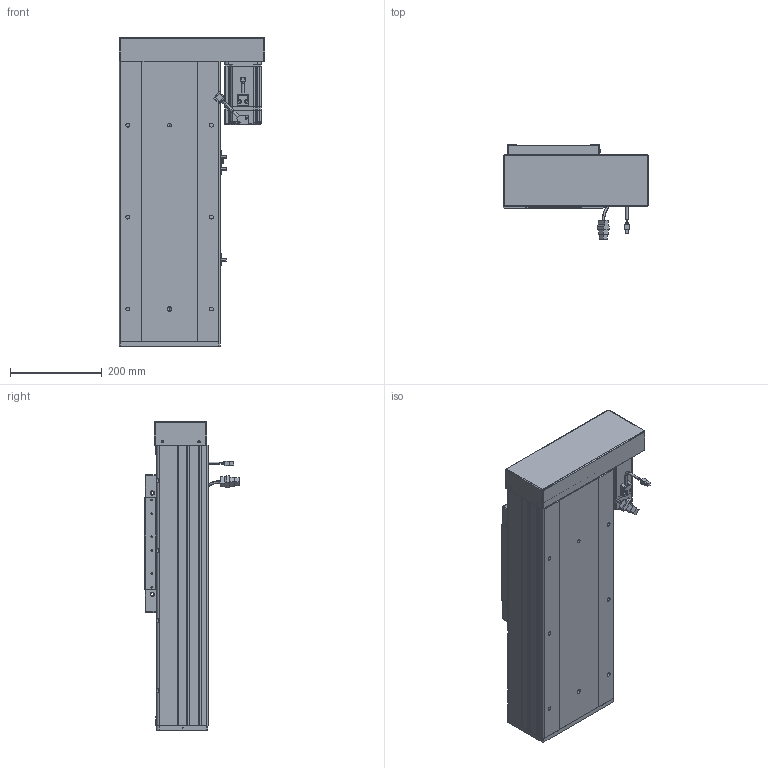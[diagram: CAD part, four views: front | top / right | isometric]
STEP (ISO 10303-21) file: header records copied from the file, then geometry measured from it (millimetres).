
FILE_DESCRIPTION (( 'STEP AP203' ), '1' );
FILE_NAME ('RY220F-L2525-300-RK.SLDASM_200.step', '2022-07-04T01:34:42', ( '' ), ( '' ), 'SwSTEP 2.0', 'SolidWorks 2016', '' );
FILE_SCHEMA (( 'CONFIG_CONTROL_DESIGN' ));
Length unit declared in the file: millimetre
Products named in the file (15): RY220F-祥凄詩湍-蛌殏-300_200; RY220左右折电机安装板; 侐源滅袉蝶; 滅袉蝶18-24; RY220酘衵殏萇儂欶; 怢湛750W_ECMA-CX0807ES; RY220F-L2525-300-RK.SLDASM_200; 覜茼ん672; RY220F臏賑釱25-32佪裝; RY220F-詩湍揤踡輸; RY220F蛌殏菁釱-300_200; RY220F-滅鳥奻裔; RY220F綴裔啣; RY220F-672覜茼んえ; RY220F-蛌殏奻裔啣-300_200
Assembly tree (21 placements, depth 2):
  RY220F-L2525-300-RK.SLDASM_200
    RY220F蛌殏菁釱-300_200
    RY220F-蛌殏奻裔啣-300_200  x2
    怢湛750W_ECMA-CX0807ES
    RY220F臏賑釱25-32佪裝
    RY220F-滅鳥奻裔
    滅袉蝶18-24  x3
    RY220F綴裔啣
    RY220F-祥凄詩湍-蛌殏-300_200
    RY220F-詩湍揤踡輸  x2
    覜茼ん672  x3
    RY220F-672覜茼んえ
    RY220左右折电机安装板
    RY220酘衵殏萇儂欶
    侐源滅袉蝶  x2
Bounding box: 317.5 x 205.27 x 671 mm (x, y, z)
Volume: 7366819.4 mm3; surface area: 1913804.6 mm2
Topology: 22 solids, 22 shells, 2098 faces, 5732 edges, 3620 vertices
Faces by surface type: cylinder 924, plane 888, cone 219, bspline 41, sphere 16, torus 10
Entity records: 64212 total; most frequent: CARTESIAN_POINT 17928, ORIENTED_EDGE 9430, DIRECTION 8986, EDGE_CURVE 4715, AXIS2_PLACEMENT_3D 3155, VERTEX_POINT 3062, VECTOR 2676, LINE 2676
